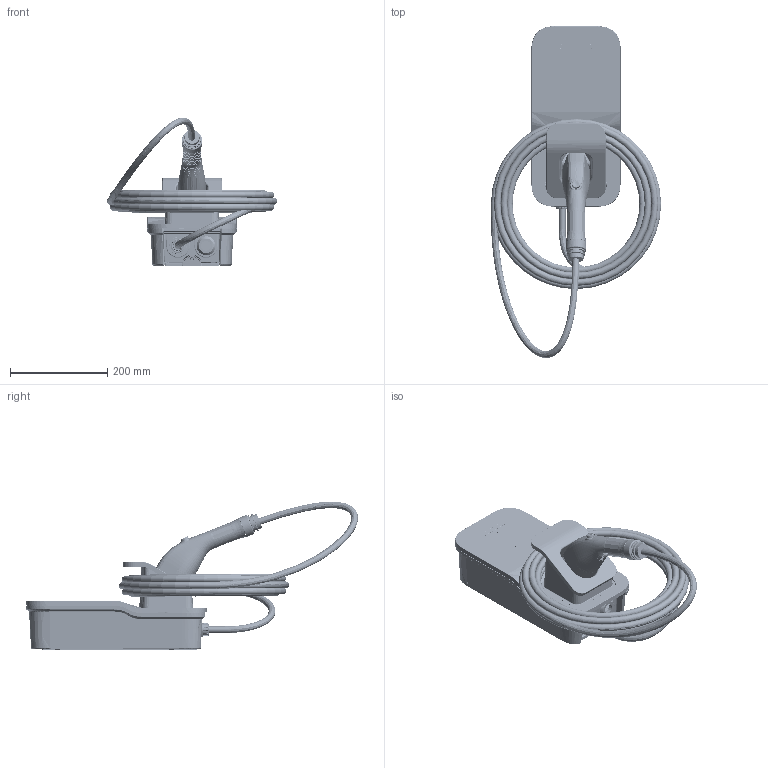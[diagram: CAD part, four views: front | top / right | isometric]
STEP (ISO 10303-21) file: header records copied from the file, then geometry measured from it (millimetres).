
FILE_DESCRIPTION (( 'STEP AP214' ), '1' );
FILE_NAME ('FLO HOME X3, HARDWIRED, J1772, Wall Mount.STEP', '2024-10-29T19:12:17', ( '' ), ( '' ), 'SwSTEP 2.0', 'SolidWorks 2022', '' );
FILE_SCHEMA (( 'AUTOMOTIVE_DESIGN' ));
Length unit declared in the file: millimetre
Products named in the file (1): FLO HOME X3, HARDWIRED, J1772, Wall Mount
Bounding box: 350.27 x 683.39 x 306.01 mm (x, y, z)
Surface area: 1196090.9 mm2 (no closed solid volume)
Topology: 0 solids, 45 shells, 10710 faces, 26739 edges, 16022 vertices
Faces by surface type: bspline 3973, cylinder 2982, plane 2577, torus 434, cone 415, sphere 329
Entity records: 601408 total; most frequent: CARTESIAN_POINT 267605, ORIENTED_EDGE 52680, DIRECTION 35703, EDGE_CURVE 26564, VERTEX_POINT 16006, AXIS2_PLACEMENT_3D 13542, EDGE_LOOP 10908, UNCERTAINTY_MEASURE_WITH_UNIT 10713
